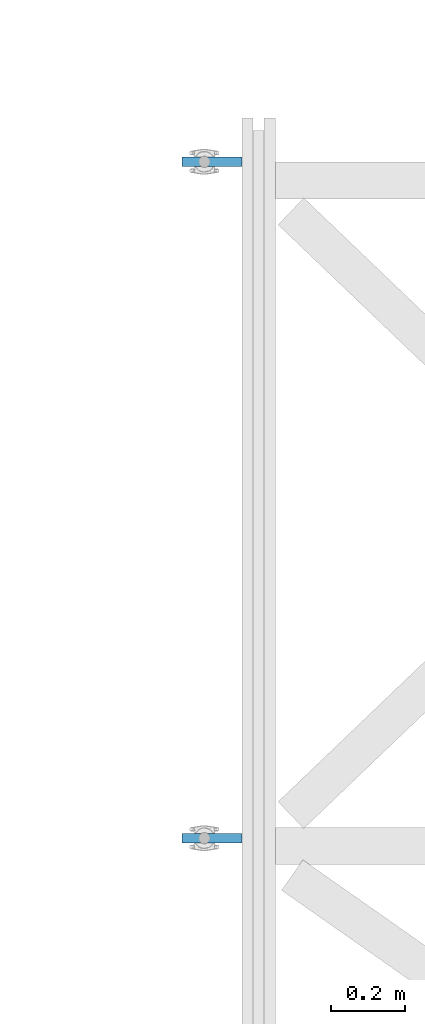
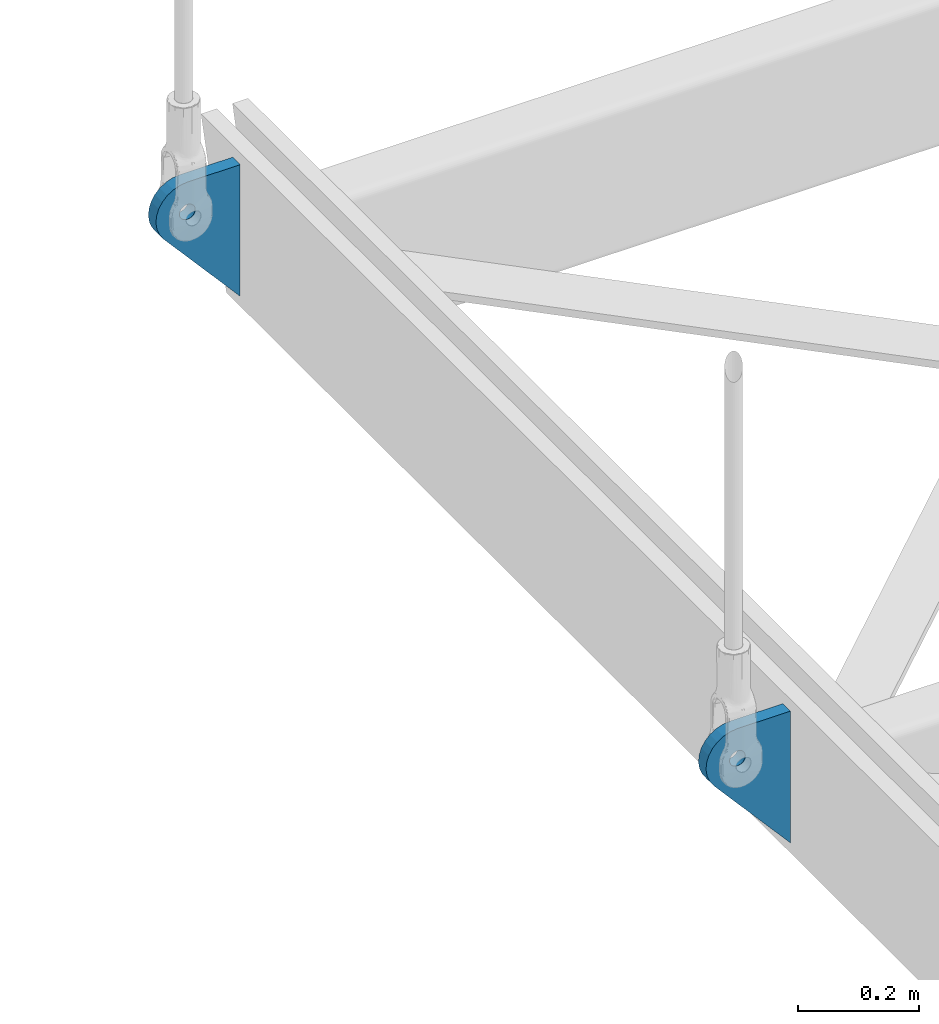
# One storey, part 19 of 34: 2 beams.
"""IFC2X3 building model written with IfcOpenShell, lengths in millimetres."""

import ifcopenshell
import ifcopenshell.guid

model = None  # the IFC model being written
_history = None  # IfcOwnerHistory: only IFC2X3 demands one
_inside = {}  # id of a spatial element -> (the spatial element, [elements in it])
_under = {}  # id of a project, library or spatial element -> (it, [spatial elements below it])
_declared = {}  # id of a project -> (the project, [libraries it declares])
_typed = {}  # id of a type object -> (the type object, [elements of that type])
_made_of = {}  # id of a material, layer set ... -> (it, [elements and type objects made of it])


def new_model(schema):
    """Start an empty IFC model of exactly this schema.

    Asked for "IFC4X3", IfcOpenShell would pick the latest addendum, in which some entities
    have other attributes; the version numbers below select the first issue.
    IFC2X3 requires an IfcOwnerHistory on every rooted entity: one is made here for all.
    """
    global model, _history
    if schema == "IFC4X3":
        model = ifcopenshell.file(schema_version=(4, 3, 0, 0))
    else:
        model = ifcopenshell.file(schema=schema)
    _inside.clear()
    _under.clear()
    _declared.clear()
    _typed.clear()
    _made_of.clear()
    _history = None
    if model.schema == "IFC2X3":
        org = make("IfcOrganization", Name="unknown")
        user = make(
            "IfcPersonAndOrganization",
            ThePerson=make("IfcPerson", FamilyName="unknown"),
            TheOrganization=org,
        )
        app = make(
            "IfcApplication",
            ApplicationDeveloper=org,
            Version="unknown",
            ApplicationFullName="unknown",
            ApplicationIdentifier="unknown",
        )
        _history = make(
            "IfcOwnerHistory",
            OwningUser=user,
            OwningApplication=app,
            ChangeAction="ADDED",
            CreationDate=0,
        )
    return model


def make(cls, **values):
    """One entity of the class cls with the attributes given. An attribute that is None is left unset."""
    return model.create_entity(
        cls, **{name: value for name, value in values.items() if value is not None}
    )


def entity(cls, *values):
    """Any entity or typed value of the class cls, its attributes in the order of the schema. None: left unset."""
    e = model.create_entity(cls)
    for i, value in enumerate(values):
        if value is not None:
            e[i] = value
    return e


def rooted(cls, **values):
    """An entity with a GlobalId (a new one), such as an element, a storey or a relation."""
    return make(cls, GlobalId=ifcopenshell.guid.new(), OwnerHistory=_history, **values)


def si_unit(unit_type, name, prefix=None):
    """IfcSIUnit, for example si_unit("LENGTHUNIT", "METRE", prefix="MILLI")."""
    return make("IfcSIUnit", UnitType=unit_type, Prefix=prefix, Name=name)


def converted_unit(unit_type, name, factor, base, dimensions=None, offset=None):
    """IfcConversionBasedUnit, such as the inch: factor (a typed value) times the base unit."""
    return make(
        "IfcConversionBasedUnit"
        if offset is None
        else "IfcConversionBasedUnitWithOffset",
        ConversionOffset=offset,
        Dimensions=None
        if dimensions is None
        else entity("IfcDimensionalExponents", *dimensions),
        UnitType=unit_type,
        Name=name,
        ConversionFactor=make(
            "IfcMeasureWithUnit", ValueComponent=factor, UnitComponent=base
        ),
    )


def derived_unit(unit_type, elements):
    """IfcDerivedUnit: a product of units, each with its exponent."""
    return make(
        "IfcDerivedUnit",
        Elements=[
            make("IfcDerivedUnitElement", Unit=unit, Exponent=power)
            for unit, power in elements
        ],
        UnitType=unit_type,
    )


def assignment(units):
    """IfcUnitAssignment: the units of a project."""
    return None if units is None else make("IfcUnitAssignment", Units=units)


def point(xyz):
    """IfcCartesianPoint."""
    return None if xyz is None else make("IfcCartesianPoint", Coordinates=xyz)


def direction(xyz):
    """IfcDirection."""
    return None if xyz is None else make("IfcDirection", DirectionRatios=xyz)


def frame(location, z_axis=None, x_axis=None):
    """IfcAxis2Placement3D, a coordinate frame: its origin and axes. An axis left out is left unset."""
    return make(
        "IfcAxis2Placement3D",
        Location=point(location),
        Axis=direction(z_axis),
        RefDirection=direction(x_axis),
    )


def frame_2d(location, x_axis=None):
    """IfcAxis2Placement2D, a coordinate frame in the plane: its origin and x axis."""
    return make(
        "IfcAxis2Placement2D", Location=point(location), RefDirection=direction(x_axis)
    )


def origin():
    """The frame at (0, 0, 0) with its axes left unset."""
    return frame((0.0, 0.0, 0.0))


def place(relative_to, where):
    """IfcLocalPlacement: puts the frame where relative to a parent placement (None: the world)."""
    return make(
        "IfcLocalPlacement", PlacementRelTo=relative_to, RelativePlacement=where
    )


def context(
    kind, dimensions, precision=None, world=None, true_north=None, identifier=None
):
    """IfcGeometricRepresentationContext, for example the 3D "Model" context."""
    return make(
        "IfcGeometricRepresentationContext",
        ContextIdentifier=identifier,
        ContextType=kind,
        CoordinateSpaceDimension=dimensions,
        Precision=precision,
        WorldCoordinateSystem=world,
        TrueNorth=true_north,
    )


def subcontext(parent, identifier, kind, view, scale=None):
    """IfcGeometricRepresentationSubContext, for example "Body" below "Model"."""
    return make(
        "IfcGeometricRepresentationSubContext",
        ContextIdentifier=identifier,
        ContextType=kind,
        ParentContext=parent,
        TargetScale=scale,
        TargetView=view,
    )


def project(units=None, contexts=None):
    """IfcProject with its units and contexts."""
    return rooted(
        "IfcProject",
        Name="project",
        RepresentationContexts=contexts,
        UnitsInContext=assignment(units),
    )


def spatial(cls, under=None, at=None, **own):
    """A site, building, storey or space (cls), placed at a placement, below another one or the project."""
    s = rooted(cls, ObjectPlacement=at, **own)
    if under is not None:
        _under.setdefault(under.id(), (under, []))[1].append(s)
    return s


def polyline(points):
    """IfcPolyline through the points."""
    return make("IfcPolyline", Points=[point(p) for p in points])


def circle_curve(where, radius):
    """IfcCircle in the frame where."""
    return make("IfcCircle", Position=where, Radius=radius)


def parameter(value):
    """IfcParameterValue: where a trimmed curve begins or ends, as a parameter of its basis curve."""
    return model.create_entity("IfcParameterValue", value)


def trimmed(basis, trim1, trim2, sense, master):
    """IfcTrimmedCurve: the piece of a basis curve between two trims."""
    return make(
        "IfcTrimmedCurve",
        BasisCurve=basis,
        Trim1=trim1,
        Trim2=trim2,
        SenseAgreement=sense,
        MasterRepresentation=master,
    )


def segment(curve, same_sense, transition):
    """IfcCompositeCurveSegment."""
    return make(
        "IfcCompositeCurveSegment",
        Transition=transition,
        SameSense=same_sense,
        ParentCurve=curve,
    )


def composite_curve(segments, self_intersect=None):
    """IfcCompositeCurve: segments joined end to end."""
    return make("IfcCompositeCurve", Segments=segments, SelfIntersect=self_intersect)


def outline(outer, holes=None, kind="AREA"):
    """IfcArbitraryClosedProfileDef: a profile drawn as a closed curve; with holes, ...WithVoids."""
    if holes is None:
        return make("IfcArbitraryClosedProfileDef", ProfileType=kind, OuterCurve=outer)
    return make(
        "IfcArbitraryProfileDefWithVoids",
        ProfileType=kind,
        OuterCurve=outer,
        InnerCurves=holes,
    )


def extrude(swept, where, along, depth):
    """IfcExtrudedAreaSolid: the profile swept, set in the frame where, extruded along a direction by depth."""
    return make(
        "IfcExtrudedAreaSolid",
        SweptArea=swept,
        Position=where,
        ExtrudedDirection=direction(along),
        Depth=depth,
    )


def shape(context_of_items, identifier, shape_type, items):
    """IfcShapeRepresentation: the items that make up one representation, for example the "Body"."""
    return make(
        "IfcShapeRepresentation",
        ContextOfItems=context_of_items,
        RepresentationIdentifier=identifier,
        RepresentationType=shape_type,
        Items=items,
    )


def material(Name=None, Category=None):
    """IfcMaterial."""
    return make("IfcMaterial", Name=Name, Category=Category)


def made_of(thing, what):
    """Note that an element or type object is made of a material, layer set ...; save() writes the relation."""
    if what is not None:
        _made_of.setdefault(what.id(), (what, []))[1].append(thing)
    return thing


def type_object(cls, material=None, **own):
    """A type object (cls), such as IfcWallType, which elements share."""
    return made_of(rooted(cls, **own), material)


def element(
    cls,
    number,
    at=None,
    inside=None,
    cuts=None,
    type_object=None,
    material=None,
    context=None,
    identifier="Body",
    shape_type=None,
    held_by="IfcProductDefinitionShape",
    body=None,
    shapes=None,
    **own,
):
    """One element of the class cls, such as IfcWall. Its Tag is "e" and its number.

    at: its placement. inside: the storey or other place that contains it. cuts: it is an
    opening in that element (IfcRelVoidsElement). A single representation is given by context,
    identifier, shape_type and body (its items); several are given by shapes. held_by: the class
    of the entity that holds the representations. save() writes the other relations.
    """
    e = rooted(cls, Tag="e%d" % number, ObjectPlacement=at, **own)
    if body is not None:
        shapes = [shape(context, identifier, shape_type, body)]
    if shapes is not None:
        e.Representation = make(held_by, Representations=shapes)
    if inside is not None:
        _inside.setdefault(inside.id(), (inside, []))[1].append(e)
    if cuts is not None:
        rooted(
            "IfcRelVoidsElement", RelatingBuildingElement=cuts, RelatedOpeningElement=e
        )
    if type_object is not None:
        _typed.setdefault(type_object.id(), (type_object, []))[1].append(e)
    return made_of(e, material)


def aggregate(whole, parts):
    """IfcRelAggregates: a whole, such as a stair, and the parts it consists of."""
    return rooted("IfcRelAggregates", RelatingObject=whole, RelatedObjects=parts)


def save(model, path):
    """Write the relations noted so far, then the file.

    IfcRelAggregates (storeys below a building ...), IfcRelContainedInSpatialStructure (elements
    in a storey), IfcRelDefinesByType, IfcRelAssociatesMaterial and IfcRelDeclares: one each for
    every whole, place, type object, material and project.
    """
    for whole, parts in _under.values():
        aggregate(whole, parts)
    for where, things in _inside.values():
        rooted(
            "IfcRelContainedInSpatialStructure",
            RelatedElements=things,
            RelatingStructure=where,
        )
    for kind, things in _typed.values():
        rooted("IfcRelDefinesByType", RelatedObjects=things, RelatingType=kind)
    for what, things in _made_of.values():
        rooted("IfcRelAssociatesMaterial", RelatedObjects=things, RelatingMaterial=what)
    for by, libraries in _declared.values():
        rooted("IfcRelDeclares", RelatingContext=by, RelatedDefinitions=libraries)
    model.write(path)


model = new_model("IFC2X3")

# Units and contexts
model_context = context("Model", 3, precision=0.01, world=origin(), true_north=direction((6.12303176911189e-17, 1.0)))
body_context = subcontext(model_context, "Body", "Model", "MODEL_VIEW")
ifc_project = project(units=[si_unit("LENGTHUNIT", "METRE", prefix="MILLI"), si_unit("AREAUNIT", "SQUARE_METRE", prefix="MILLI"), si_unit("VOLUMEUNIT", "CUBIC_METRE"), converted_unit("PLANEANGLEUNIT", "DEGREE", entity("IfcRatioMeasure", 0.0174532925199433), si_unit("PLANEANGLEUNIT", "RADIAN"), dimensions=[0, 0, 0, 0, 0, 0, 0]), si_unit("MASSUNIT", "GRAM", prefix="KILO"), derived_unit("MASSDENSITYUNIT", [(si_unit("MASSUNIT", "GRAM", prefix="KILO"), 1), (si_unit("LENGTHUNIT", "METRE"), -3)]), derived_unit("MOMENTOFINERTIAUNIT", [(si_unit("LENGTHUNIT", "METRE"), 4)]), si_unit("TIMEUNIT", "SECOND"), si_unit("FREQUENCYUNIT", "HERTZ"), si_unit("THERMODYNAMICTEMPERATUREUNIT", "DEGREE_CELSIUS"), derived_unit("THERMALTRANSMITTANCEUNIT", [(si_unit("MASSUNIT", "GRAM", prefix="KILO"), 1), (si_unit("THERMODYNAMICTEMPERATUREUNIT", "KELVIN"), -1), (si_unit("TIMEUNIT", "SECOND"), -3)]), derived_unit("VOLUMETRICFLOWRATEUNIT", [(si_unit("LENGTHUNIT", "METRE"), 3), (si_unit("TIMEUNIT", "SECOND"), -1)]), si_unit("ELECTRICCURRENTUNIT", "AMPERE"), si_unit("ELECTRICVOLTAGEUNIT", "VOLT"), si_unit("POWERUNIT", "WATT"), si_unit("FORCEUNIT", "NEWTON", prefix="KILO"), si_unit("ILLUMINANCEUNIT", "LUX"), si_unit("LUMINOUSFLUXUNIT", "LUMEN"), si_unit("LUMINOUSINTENSITYUNIT", "CANDELA"), derived_unit("USERDEFINED", [(si_unit("MASSUNIT", "GRAM", prefix="KILO"), -1), (si_unit("LENGTHUNIT", "METRE"), -2), (si_unit("TIMEUNIT", "SECOND"), 3), (si_unit("LUMINOUSFLUXUNIT", "LUMEN"), 1)]), derived_unit("LINEARVELOCITYUNIT", [(si_unit("LENGTHUNIT", "METRE"), 1), (si_unit("TIMEUNIT", "SECOND"), -1)]), si_unit("PRESSUREUNIT", "PASCAL"), derived_unit("USERDEFINED", [(si_unit("LENGTHUNIT", "METRE"), -2), (si_unit("MASSUNIT", "GRAM", prefix="KILO"), 1), (si_unit("TIMEUNIT", "SECOND"), -2)]), derived_unit("LINEARFORCEUNIT", [(si_unit("MASSUNIT", "GRAM", prefix="KILO"), 1), (si_unit("LENGTHUNIT", "METRE"), 1), (si_unit("TIMEUNIT", "SECOND"), -2), (si_unit("LENGTHUNIT", "METRE"), -1)]), derived_unit("PLANARFORCEUNIT", [(si_unit("MASSUNIT", "GRAM", prefix="KILO"), 1), (si_unit("LENGTHUNIT", "METRE"), 1), (si_unit("TIMEUNIT", "SECOND"), -2), (si_unit("LENGTHUNIT", "METRE"), -2)])], contexts=[model_context])

# Site, building, storey
site_placement = place(None, origin())
site = spatial("IfcSite", under=ifc_project, at=site_placement, Name="Theater aan de Parade", CompositionType="ELEMENT")
building_placement = place(site_placement, origin())
building = spatial("IfcBuilding", under=site, at=building_placement, Name="Theater aan de Parade", CompositionType="ELEMENT")
storey_placement = place(building_placement, frame((0.0, 0.0, 3.49116848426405e-09)))
storey = spatial("IfcBuildingStorey", under=building, at=storey_placement, Name="00 begane grond", CompositionType="ELEMENT", Elevation=3.49116848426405e-09)

# Beams
ifc_material = material(Name="00_PBT_MAT_staal_S355")
beam_type = type_object("IfcBeamType", Name="28_PBT_SF_staal_aangelaste plaat trapboom willemsanker:plaat", PredefinedType="NOTDEFINED")
beam_1_placement = place(storey_placement, origin())
element("IfcBeam", 1, at=beam_1_placement, inside=storey, type_object=beam_type, material=ifc_material, Name="28_PBT_SF_staal_aangelaste plaat trapboom willemsanker:plaat", ObjectType="28_PBT_SF_staal_aangelaste plaat trapboom willemsanker:plaat", context=body_context, shape_type="SweptSolid", body=[
    extrude(outline(composite_curve([segment(polyline([(-171.969601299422, -68.7672742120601), (49.4733936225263, -68.7672742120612)]), True, "CONTINUOUS"), segment(trimmed(circle_curve(frame_2d((49.4733936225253, -8.76727421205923), x_axis=(0.659721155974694, -0.751510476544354)), 60.0000000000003), [parameter(318.721389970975)], [parameter(90.0)], True, "PARAMETER"), True, "CONTINUOUS"), segment(polyline([(94.5640222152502, 30.8159951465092), (27.9321854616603, 106.718553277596)]), True, "CONTINUOUS"), segment(polyline([(27.9321854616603, 106.718553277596), (-171.969601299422, -68.7672742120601)]), True, "CONTINUOUS")], self_intersect=False), holes=[composite_curve([segment(trimmed(circle_curve(frame_2d((49.4733936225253, -8.76727421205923), x_axis=(0.659721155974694, -0.751510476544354)), 15.0), [parameter(180.0)], [parameter(1.52666624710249e-13)], True, "PARAMETER"), False, "CONTINUOUS"), segment(trimmed(circle_curve(frame_2d((49.4733936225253, -8.76727421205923), x_axis=(0.659721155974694, -0.751510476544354)), 15.0), [parameter(4.07110999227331e-13)], [parameter(180.0)], True, "PARAMETER"), False, "CONTINUOUS")], self_intersect=False)]), frame((37385.0555360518, 28437.4999999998, -85.3958173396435), z_axis=(0.0, 1.0, 0.0), x_axis=(-0.659721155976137, 0.0, 0.75151047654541)), (0.0, 0.0, 1.0), 24.9999999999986),
])
beam_2_placement = place(storey_placement, origin())
element("IfcBeam", 2, at=beam_2_placement, inside=storey, type_object=beam_type, material=ifc_material, Name="28_PBT_SF_staal_aangelaste plaat trapboom willemsanker:plaat", ObjectType="28_PBT_SF_staal_aangelaste plaat trapboom willemsanker:plaat", context=body_context, shape_type="SweptSolid", body=[
    extrude(outline(composite_curve([segment(polyline([(-171.969601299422, -68.7672742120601), (49.4733936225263, -68.7672742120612)]), True, "CONTINUOUS"), segment(trimmed(circle_curve(frame_2d((49.4733936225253, -8.76727421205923), x_axis=(0.659721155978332, -0.751510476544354)), 60.0000000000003), [parameter(318.721389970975)], [parameter(90.0)], True, "PARAMETER"), True, "CONTINUOUS"), segment(polyline([(94.5640222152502, 30.8159951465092), (27.9321854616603, 106.718553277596)]), True, "CONTINUOUS"), segment(polyline([(27.9321854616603, 106.718553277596), (-171.969601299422, -68.7672742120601)]), True, "CONTINUOUS")], self_intersect=False), holes=[composite_curve([segment(trimmed(circle_curve(frame_2d((49.4733936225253, -8.76727421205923), x_axis=(0.659721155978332, -0.751510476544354)), 15.0), [parameter(180.0)], [parameter(1.52666624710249e-13)], True, "PARAMETER"), False, "CONTINUOUS"), segment(trimmed(circle_curve(frame_2d((49.4733936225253, -8.76727421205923), x_axis=(0.659721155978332, -0.751510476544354)), 15.0), [parameter(4.07110999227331e-13)], [parameter(180.0)], True, "PARAMETER"), False, "CONTINUOUS")], self_intersect=False)]), frame((37385.0555360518, 30257.4999999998, -85.3958173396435), z_axis=(0.0, 1.0, 0.0), x_axis=(-0.659721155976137, 0.0, 0.75151047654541)), (0.0, 0.0, 1.0), 24.9999999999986),
])

save(model, "model.ifc")
